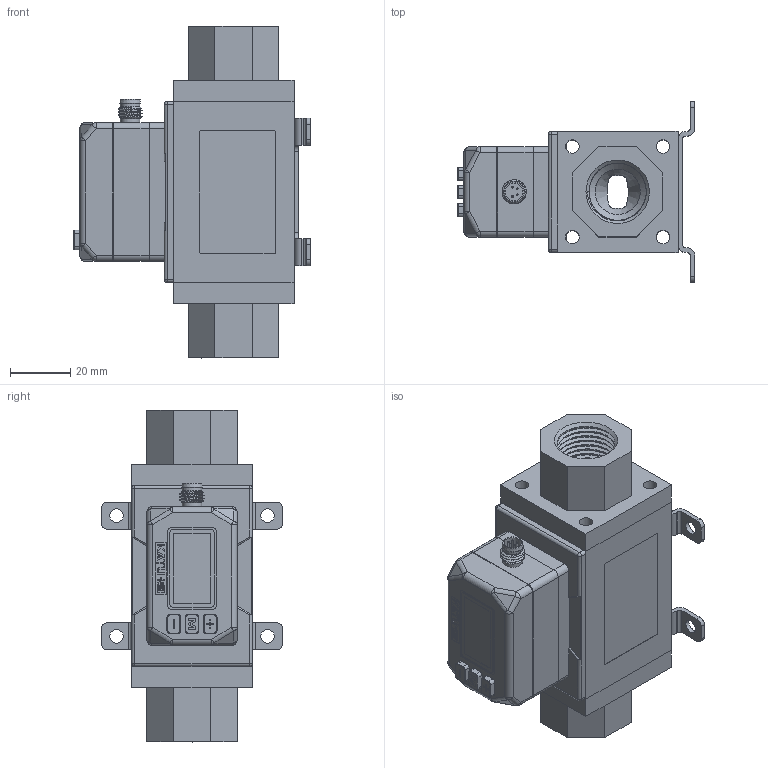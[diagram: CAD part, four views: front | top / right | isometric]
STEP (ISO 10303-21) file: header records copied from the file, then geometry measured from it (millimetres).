
FILE_DESCRIPTION( (''), '2;1');
FILE_NAME( 'QEKJ_30L_R1-2.step', '2026-09-29T16:20:52+08:00', (''), (''), '', '', '');
FILE_SCHEMA (('AUTOMOTIVE_DESIGN { 1 0 10303 214 3 1 1 1 }'));
Length unit declared in the file: millimetre
Products named in the file (1): QEKJ 30L_R1-2
Bounding box: 78.6 x 60 x 110 mm (x, y, z)
Volume: 116883 mm3; surface area: 71138 mm2
Topology: 7 solids, 8 shells, 1049 faces, 2874 edges, 1873 vertices
Faces by surface type: plane 656, cylinder 271, cone 51, extrusion 26, sphere 20, torus 17, bspline 8
Full cylindrical faces by diameter (mm): 0.6 x4, 1.7 x2, 1.8 x6, 2.05 x4, 2.3 x1, 2.9 x2, 3 x4, 3.3 x4, 4.5 x24, 5 x4, 5.8 x1, 6 x1, 6.5 x2, 8 x6, 9.5 x1, 15 x2, 23 x4
Entity records: 40962 total; most frequent: CARTESIAN_POINT 14183, ORIENTED_EDGE 5342, DIRECTION 5075, EDGE_CURVE 2671, VECTOR 1939, LINE 1913, VERTEX_POINT 1806, AXIS2_PLACEMENT_3D 1568
